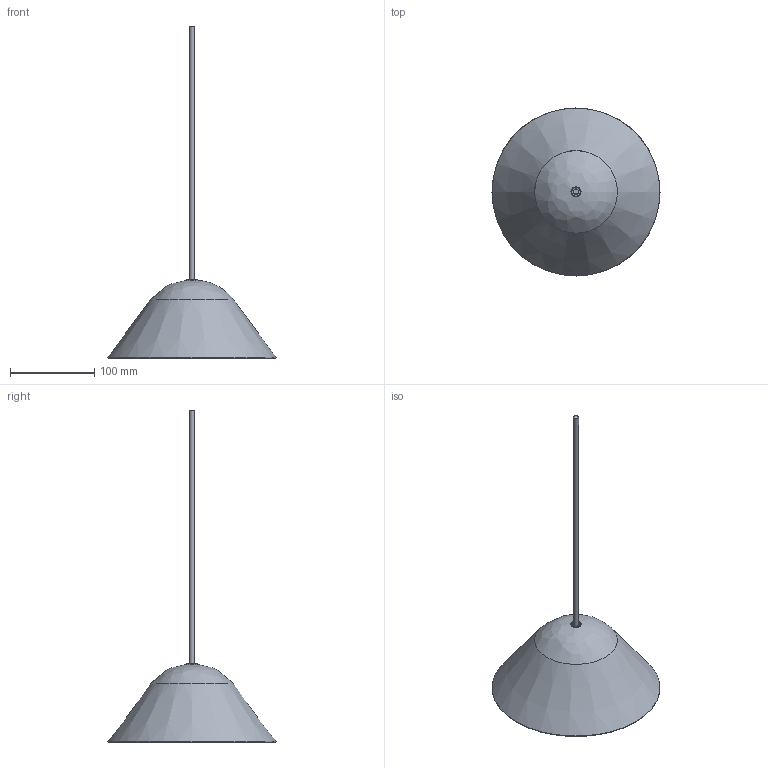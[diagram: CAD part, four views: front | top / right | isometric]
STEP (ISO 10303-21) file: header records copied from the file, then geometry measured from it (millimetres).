
FILE_DESCRIPTION(/* description */ (''),/* implementation_level */ '2;1');
FILE_NAME(/* name */ 'CassisSmall200mmBrass.step',/* time_stamp */ '2023-09-06T14:49:51+02:00',/* author */ (''),/* organization */ (''),/* preprocessor_version */ 'ST-DEVELOPER v20',/* originating_system */ 'Autodesk Translation Framework v12.9.0.99',/* authorisation */ '');
FILE_SCHEMA (('AUTOMOTIVE_DESIGN { 1 0 10303 214 3 1 1 }'));
Length unit declared in the file: millimetre
Products named in the file (1): Cassis Small 200mm
Bounding box: 199.02 x 199.02 x 393 mm (x, y, z)
Volume: 186216.3 mm3; surface area: 140605.6 mm2
Topology: 6 solids, 6 shells, 35 faces, 59 edges, 37 vertices
Faces by surface type: plane 13, torus 10, cylinder 7, cone 3, bspline 2
Full cylindrical faces by diameter (mm): 6 x1, 10 x2, 12 x1, 70.685 x3
Entity records: 947 total; most frequent: CARTESIAN_POINT 184, DIRECTION 176, ORIENTED_EDGE 118, AXIS2_PLACEMENT_3D 83, EDGE_CURVE 59, CIRCLE 49, EDGE_LOOP 40, VERTEX_POINT 37
